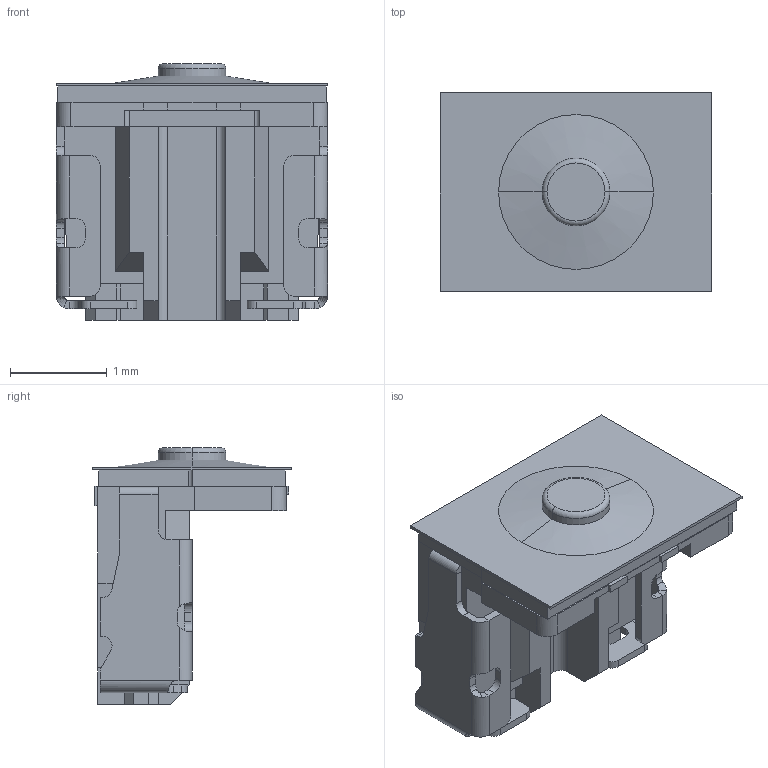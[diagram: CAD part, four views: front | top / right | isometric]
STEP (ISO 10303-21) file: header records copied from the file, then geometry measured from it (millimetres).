
FILE_DESCRIPTION((' '),'2;1');
FILE_NAME( 'TAM15.STEP.stp', '2026-03-04T16:08:25', (' '), ('--- ---'), ' V2025.1 Dec 16 2024', ' 2026 (c)', ' ');
FILE_SCHEMA(('AP242_MANAGED_MODEL_BASED_3D_ENGINEERING_MIM_LF { 1 0 10303 442 1 1 4 }'));
Length unit declared in the file: millimetre
Products named in the file (1): TAM15-BWJ-R
Bounding box: 2.8 x 2.05 x 2.65 mm (x, y, z)
Volume: 6.1 mm3; surface area: 41.4 mm2
Topology: 1 solids, 1 shells, 301 faces, 803 edges, 508 vertices
Faces by surface type: plane 219, cylinder 72, bspline 6, torus 2, cone 2
Entity records: 9476 total; most frequent: CARTESIAN_POINT 1733, ORIENTED_EDGE 1606, DIRECTION 1539, EDGE_CURVE 803, VECTOR 635, LINE 635, VERTEX_POINT 508, AXIS2_PLACEMENT_3D 452
